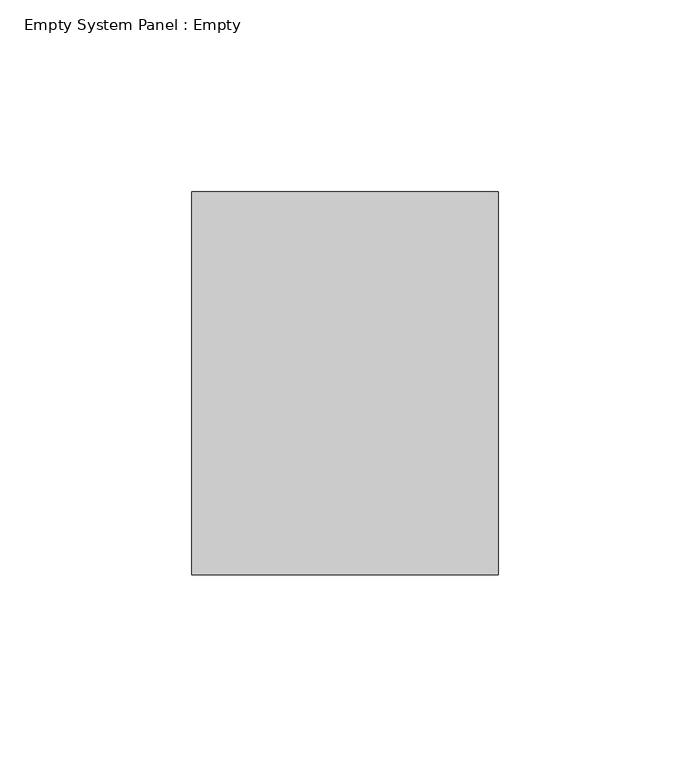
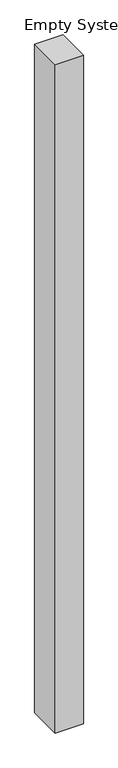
"""IFC4 building model written with IfcOpenShell, lengths in millimetres: plate geometry, Empty System Panel : Empty."""

from ifc_helpers import new_model, si_unit, origin, origin_with_axes, place, context, project, spatial, polyline, outline, extrude, source, transform, mapped, element, save


def empty_system_panel_empty_3767e820(model_context):
    return source(origin(), model_context, "Body", "SweptSolid", [
        extrude(outline(polyline([(40.0, -50.0), (-40.0, -50.0), (-40.0, 50.0), (40.0, 50.0), (40.0, -50.0)])), origin_with_axes(), (0.0, 0.0, 1.0), 2000.0),
    ])


if __name__ == "__main__":
    model = new_model("IFC4")
    model_context = context("Model", 3, world=origin())
    ifc_project = project(units=[si_unit("LENGTHUNIT", "METRE", prefix="MILLI")], contexts=[model_context])
    site = spatial("IfcSite", under=ifc_project)
    building = spatial("IfcBuilding", under=site)
    placement = place(None, origin())
    empty_system_panel_empty_shape = empty_system_panel_empty_3767e820(model_context)
    element("IfcPlate", 1, ObjectType="Empty System Panel : Empty", at=placement, inside=building, context=model_context, shape_type="MappedRepresentation", body=[
        mapped(empty_system_panel_empty_shape, transform((0.0, 0.0, 0.0), x_axis=(1.0, 0.0, 0.0), y_axis=(0.0, 1.0, 0.0), z_axis=(0.0, 0.0, 1.0))),
    ])
    save(model, "model.ifc")
